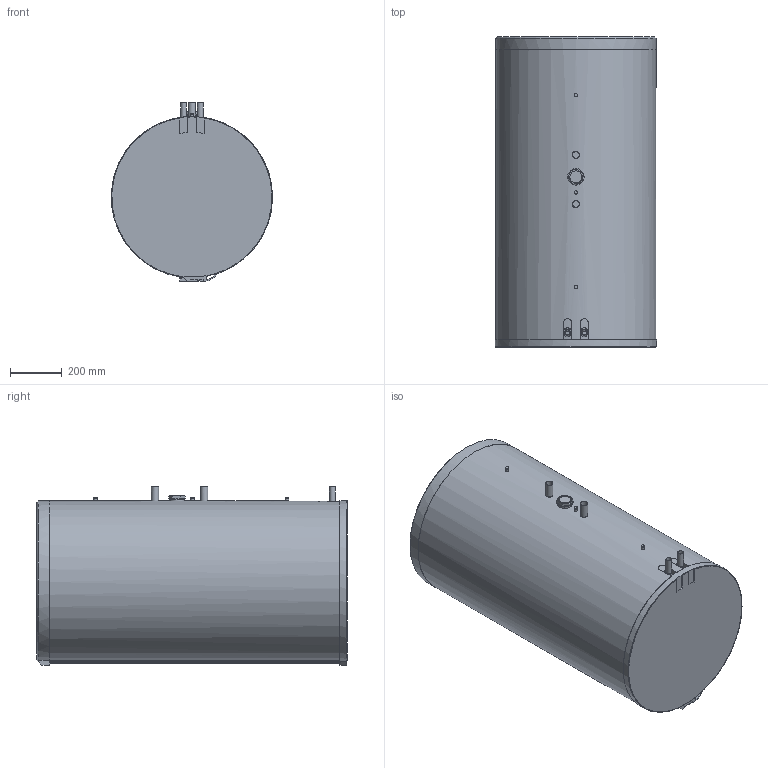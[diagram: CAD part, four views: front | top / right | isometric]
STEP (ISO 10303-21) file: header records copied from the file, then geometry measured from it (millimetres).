
FILE_DESCRIPTION(/* description */ (''),/* implementation_level */ '2;1');
FILE_NAME(/* name */ 'G:\04. Producten\07. RVS (W) staand\01. Tekeningen\30250_Voorraadvat RVS-200-WP-Staand_Simplified_Tekening3D.stp',/* time_stamp */ '2020-04-08T10:16:38+02:00',/* author */ ('s.vijverberg'),/* organization */ (''),/* preprocessor_version */ 'ST-DEVELOPER v18',/* originating_system */ 'Autodesk Inventor 2020',/* authorisation */ '');
FILE_SCHEMA (('AUTOMOTIVE_DESIGN { 1 0 10303 214 3 1 1 }'));
Length unit declared in the file: millimetre
Products named in the file (1): 30250_Voorraadvat RVS-200-WP-Staand_Simplified_Tekening3D
Bounding box: 622.15 x 1200.1 x 689.5 mm (x, y, z)
Volume: 361638767.4 mm3; surface area: 3102102.5 mm2
Topology: 1 solids, 1 shells, 187 faces, 509 edges, 343 vertices
Faces by surface type: plane 94, cylinder 72, cone 13, torus 8
Full cylindrical faces by diameter (mm): 13 x6, 20.4 x4, 22 x4, 26 x2, 28 x2, 46 x1, 56 x1, 63.48 x1, 620 x1
Entity records: 6848 total; most frequent: CARTESIAN_POINT 1684, DIRECTION 1043, ORIENTED_EDGE 1018, EDGE_CURVE 509, AXIS2_PLACEMENT_3D 386, VERTEX_POINT 343, LINE 271, VECTOR 271
